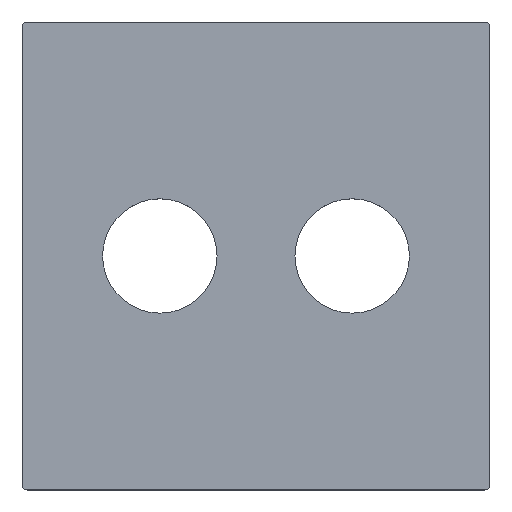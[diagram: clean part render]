
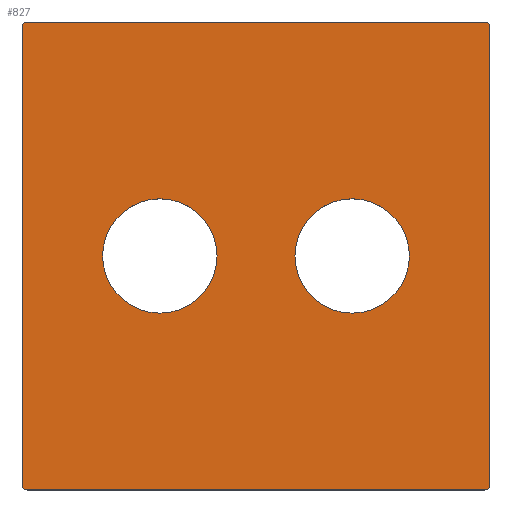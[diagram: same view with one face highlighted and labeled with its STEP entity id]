
A CAD part, top view. The second image highlights one B-rep face of the part: STEP entity #827.
In plain terms, the highlighted planar face has unit normal (0, 0, 1).
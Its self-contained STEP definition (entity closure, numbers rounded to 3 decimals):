
#84=CARTESIAN_POINT('',(29.5,0.,3.));
#85=VERTEX_POINT('',#84);
#86=CARTESIAN_POINT('',(18.5,0.0,3.));
#87=DIRECTION('',(0.0,0.0,-1.0));
#88=DIRECTION('',(-1.0,0.0,0.0));
#89=AXIS2_PLACEMENT_3D('',#86,#87,#88);
#90=CIRCLE('',#89,11.0);
#91=EDGE_CURVE('',#85,#85,#90,.T.);
#112=CARTESIAN_POINT('',(-7.5,0.,3.));
#113=VERTEX_POINT('',#112);
#114=CARTESIAN_POINT('',(-18.5,0.0,3.));
#115=DIRECTION('',(0.0,0.0,-1.0));
#116=DIRECTION('',(-1.0,0.0,0.0));
#117=AXIS2_PLACEMENT_3D('',#114,#115,#116);
#118=CIRCLE('',#117,11.0);
#119=EDGE_CURVE('',#113,#113,#118,.T.);
#598=CARTESIAN_POINT('',(-45.,-44.,3.));
#599=VERTEX_POINT('',#598);
#606=CARTESIAN_POINT('',(-45.0,44.,3.));
#607=VERTEX_POINT('',#606);
#608=CARTESIAN_POINT('',(-45.,-44.,3.));
#609=DIRECTION('',(0.0,1.0,0.0));
#610=VECTOR('',#609,88.);
#611=LINE('',#608,#610);
#612=EDGE_CURVE('',#599,#607,#611,.T.);
#629=CARTESIAN_POINT('',(-44.,-45.,3.));
#630=VERTEX_POINT('',#629);
#637=CARTESIAN_POINT('',(-44.,-44.,3.));
#638=DIRECTION('',(0.0,0.0,-1.));
#639=DIRECTION('',(-0.707,-0.707,0.0));
#640=AXIS2_PLACEMENT_3D('',#637,#638,#639);
#641=CIRCLE('',#640,1.);
#642=EDGE_CURVE('',#630,#599,#641,.T.);
#654=CARTESIAN_POINT('',(44.,-45.0,3.));
#655=VERTEX_POINT('',#654);
#662=CARTESIAN_POINT('',(44.,-45.0,3.));
#663=DIRECTION('',(-1.0,0.0,0.0));
#664=VECTOR('',#663,88.0);
#665=LINE('',#662,#664);
#666=EDGE_CURVE('',#655,#630,#665,.T.);
#678=CARTESIAN_POINT('',(45.,-44.0,3.));
#679=VERTEX_POINT('',#678);
#686=CARTESIAN_POINT('',(44.,-44.0,3.));
#687=DIRECTION('',(0.0,0.0,-1.));
#688=DIRECTION('',(0.707,-0.707,0.0));
#689=AXIS2_PLACEMENT_3D('',#686,#687,#688);
#690=CIRCLE('',#689,1.);
#691=EDGE_CURVE('',#679,#655,#690,.T.);
#722=CARTESIAN_POINT('',(-44.0,45.0,3.));
#723=VERTEX_POINT('',#722);
#724=CARTESIAN_POINT('',(-44.0,44.0,3.));
#725=DIRECTION('',(0.0,0.0,-1.));
#726=DIRECTION('',(-0.707,0.707,0.0));
#727=AXIS2_PLACEMENT_3D('',#724,#725,#726);
#728=CIRCLE('',#727,1.);
#729=EDGE_CURVE('',#607,#723,#728,.T.);
#747=CARTESIAN_POINT('',(44.0,45.0,3.));
#748=VERTEX_POINT('',#747);
#749=CARTESIAN_POINT('',(-44.0,45.0,3.));
#750=DIRECTION('',(1.0,0.0,0.0));
#751=VECTOR('',#750,88.0);
#752=LINE('',#749,#751);
#753=EDGE_CURVE('',#723,#748,#752,.T.);
#771=CARTESIAN_POINT('',(45.0,44.0,3.));
#772=VERTEX_POINT('',#771);
#773=CARTESIAN_POINT('',(44.0,44.0,3.));
#774=DIRECTION('',(0.0,0.0,-1.));
#775=DIRECTION('',(0.707,0.707,0.0));
#776=AXIS2_PLACEMENT_3D('',#773,#774,#775);
#777=CIRCLE('',#776,1.);
#778=EDGE_CURVE('',#748,#772,#777,.T.);
#796=CARTESIAN_POINT('',(45.0,44.0,3.));
#797=DIRECTION('',(0.0,-1.0,0.0));
#798=VECTOR('',#797,88.0);
#799=LINE('',#796,#798);
#800=EDGE_CURVE('',#772,#679,#799,.T.);
#806=CARTESIAN_POINT('',(0.,0.,3.));
#807=DIRECTION('',(0.0,0.0,1.0));
#808=DIRECTION('',(1.0,0.0,0.0));
#809=AXIS2_PLACEMENT_3D('',#806,#807,#808);
#810=PLANE('',#809);
#811=ORIENTED_EDGE('',*,*,#642,.F.);
#812=ORIENTED_EDGE('',*,*,#666,.F.);
#813=ORIENTED_EDGE('',*,*,#691,.F.);
#814=ORIENTED_EDGE('',*,*,#800,.F.);
#815=ORIENTED_EDGE('',*,*,#778,.F.);
#816=ORIENTED_EDGE('',*,*,#753,.F.);
#817=ORIENTED_EDGE('',*,*,#729,.F.);
#818=ORIENTED_EDGE('',*,*,#612,.F.);
#819=EDGE_LOOP('',(#811,#812,#813,#814,#815,#816,#817,#818));
#820=FACE_OUTER_BOUND('',#819,.T.);
#821=ORIENTED_EDGE('',*,*,#91,.T.);
#822=EDGE_LOOP('',(#821));
#823=FACE_BOUND('',#822,.T.);
#824=ORIENTED_EDGE('',*,*,#119,.T.);
#825=EDGE_LOOP('',(#824));
#826=FACE_BOUND('',#825,.T.);
#827=ADVANCED_FACE('',(#820,#823,#826),#810,.T.);
